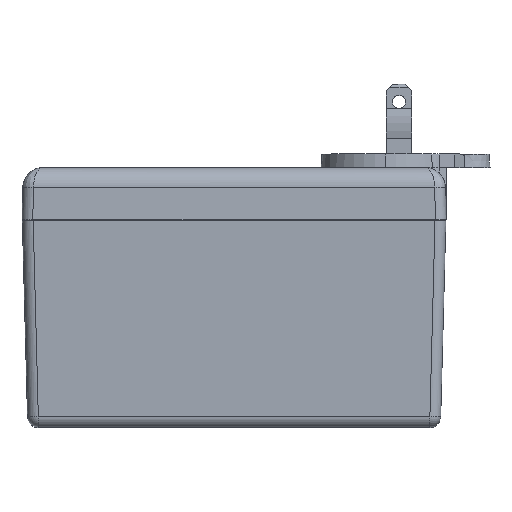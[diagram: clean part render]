
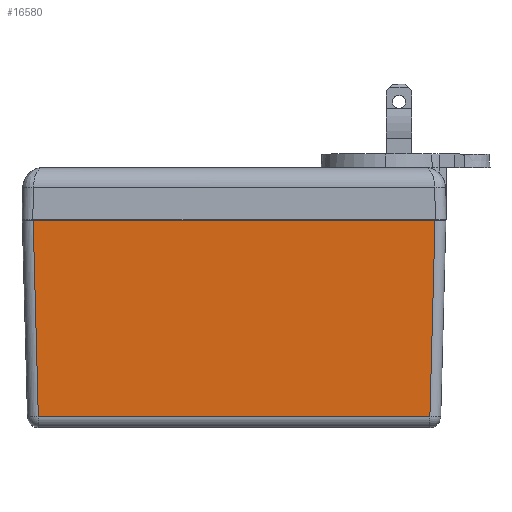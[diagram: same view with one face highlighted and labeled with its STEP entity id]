
A CAD part, top view. The second image highlights one B-rep face of the part: STEP entity #16580.
In plain terms, the highlighted planar face has unit normal (0, -0.026, 1).
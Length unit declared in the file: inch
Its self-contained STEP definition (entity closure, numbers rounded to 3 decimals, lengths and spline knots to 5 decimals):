
#272 = FACE_OUTER_BOUND ( 'NONE', #5849, .T. ) ;
#1099 = CARTESIAN_POINT ( 'NONE',  ( -2.0545, -1.90275, 1.06617 ) ) ;
#1168 = CARTESIAN_POINT ( 'NONE',  ( -2.0545, 0., 1.116 ) ) ;
#1198 = DIRECTION ( 'NONE',  ( 1., 0., 0. ) ) ;
#1629 = DIRECTION ( 'NONE',  ( 1., 0., 0. ) ) ;
#1828 = CARTESIAN_POINT ( 'NONE',  ( -1.94961, 0.00274, 1.11607 ) ) ;
#1830 = DIRECTION ( 'NONE',  ( 0.026, -0.999, -0.026 ) ) ;
#1861 = CARTESIAN_POINT ( 'NONE',  ( 1.94679, -0.10471, 1.11326 ) ) ;
#1863 = DIRECTION ( 'NONE',  ( 0.026, 0.999, 0.026 ) ) ;
#3244 = CARTESIAN_POINT ( 'NONE',  ( -1.89971, -1.90275, 1.06617 ) ) ;
#3382 = CARTESIAN_POINT ( 'NONE',  ( 1.94954, 0., 1.116 ) ) ;
#3387 = CARTESIAN_POINT ( 'NONE',  ( -1.94954, 0., 1.116 ) ) ;
#3403 = CARTESIAN_POINT ( 'NONE',  ( 1.89971, -1.90275, 1.06617 ) ) ;
#5849 = EDGE_LOOP ( 'NONE', ( #6240, #6175, #6214, #6213 ) ) ;
#6175 = ORIENTED_EDGE ( 'NONE', *, *, #13529, .T. ) ;
#6213 = ORIENTED_EDGE ( 'NONE', *, *, #13530, .T. ) ;
#6214 = ORIENTED_EDGE ( 'NONE', *, *, #13531, .F. ) ;
#6240 = ORIENTED_EDGE ( 'NONE', *, *, #13515, .T. ) ;
#8044 = AXIS2_PLACEMENT_3D ( 'NONE', #12229, #12232, #12233 ) ;
#12229 = CARTESIAN_POINT ( 'NONE',  ( -2.0545, 0., 1.116 ) ) ;
#12230 = PLANE ( 'NONE',  #8044 ) ;
#12232 = DIRECTION ( 'NONE',  ( 0., -0.026, 1. ) ) ;
#12233 = DIRECTION ( 'NONE',  ( 0., -1., -0.026 ) ) ;
#13515 = EDGE_CURVE ( 'NONE', #13931, #13899, #15717, .T. ) ;
#13529 = EDGE_CURVE ( 'NONE', #13899, #13905, #15691, .T. ) ;
#13530 = EDGE_CURVE ( 'NONE', #13904, #13931, #15689, .T. ) ;
#13531 = EDGE_CURVE ( 'NONE', #13904, #13905, #15687, .T. ) ;
#13899 = VERTEX_POINT ( 'NONE', #3403 ) ;
#13904 = VERTEX_POINT ( 'NONE', #3387 ) ;
#13905 = VERTEX_POINT ( 'NONE', #3382 ) ;
#13931 = VERTEX_POINT ( 'NONE', #3244 ) ;
#15686 = VECTOR ( 'NONE', #1629, 39.37008 ) ;
#15687 = LINE ( 'NONE', #1168, #15686 ) ;
#15688 = VECTOR ( 'NONE', #1830, 39.37008 ) ;
#15689 = LINE ( 'NONE', #1828, #15688 ) ;
#15690 = VECTOR ( 'NONE', #1863, 39.37008 ) ;
#15691 = LINE ( 'NONE', #1861, #15690 ) ;
#15717 = LINE ( 'NONE', #1099, #15720 ) ;
#15720 = VECTOR ( 'NONE', #1198, 39.37008 ) ;
#16580 = ADVANCED_FACE ( 'NONE', ( #272 ), #12230, .T. ) ;
